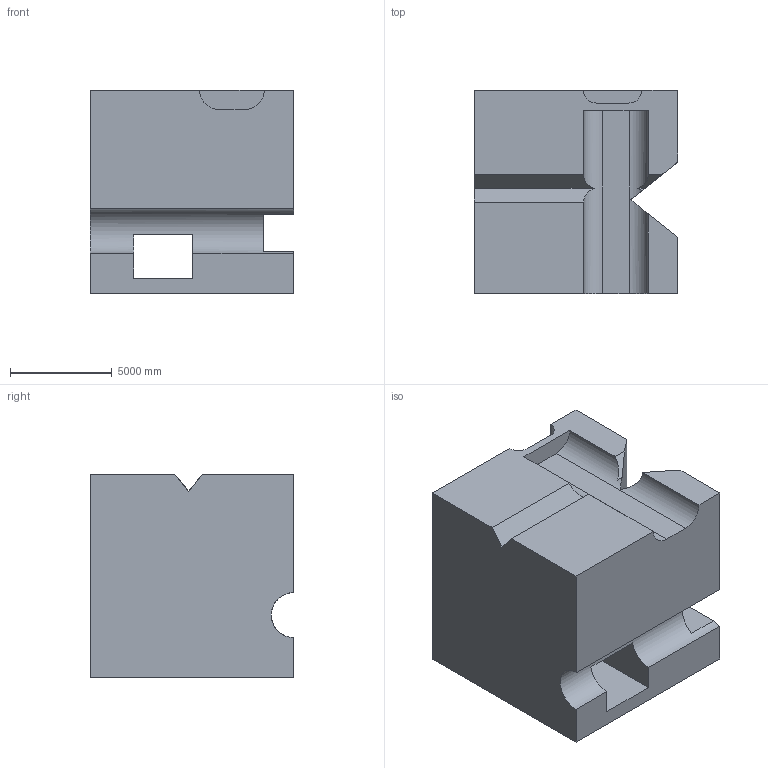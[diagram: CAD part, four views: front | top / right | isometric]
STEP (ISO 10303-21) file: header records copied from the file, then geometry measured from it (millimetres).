
FILE_DESCRIPTION (( 'STEP AP203' ), '1' );
FILE_NAME ('605.STEP', '2022-07-29T12:03:16', ( 'user' ), ( '' ), 'SwSTEP 2.0', 'SolidWorks 2021', '' );
FILE_SCHEMA (( 'CONFIG_CONTROL_DESIGN' ));
Length unit declared in the file: centimetre
Products named in the file (1): 605
Bounding box: 10000 x 10000 x 10000 mm (x, y, z)
Volume: 830109551964.9 mm3; surface area: 728653674 mm2
Topology: 1 solids, 1 shells, 37 faces, 108 edges, 72 vertices
Faces by surface type: plane 32, cylinder 5
Entity records: 1297 total; most frequent: CARTESIAN_POINT 236, ORIENTED_EDGE 216, DIRECTION 192, EDGE_CURVE 108, LINE 88, VECTOR 88, VERTEX_POINT 72, AXIS2_PLACEMENT_3D 52
